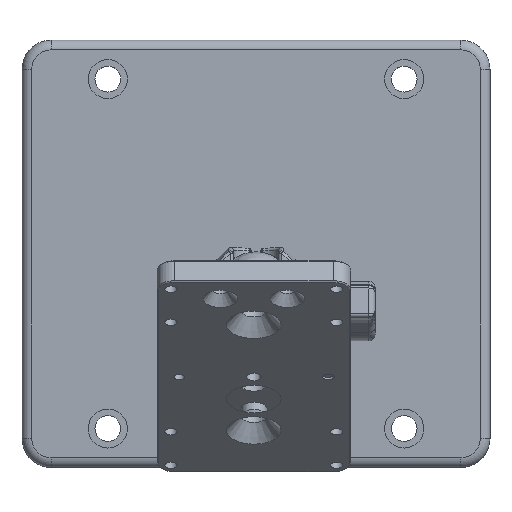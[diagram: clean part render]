
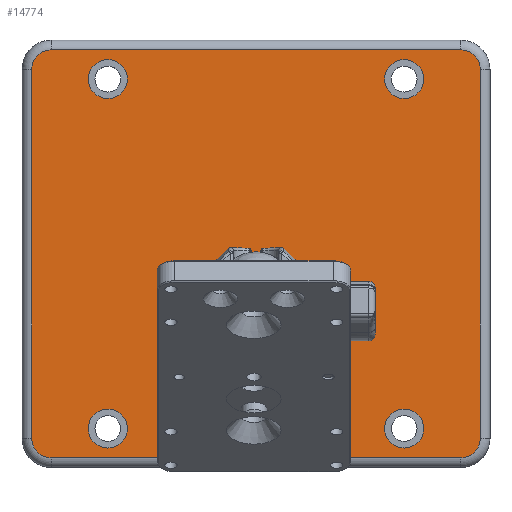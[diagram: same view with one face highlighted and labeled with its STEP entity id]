
A CAD part, top view. The second image highlights one B-rep face of the part: STEP entity #14774.
In plain terms, the highlighted planar face has unit normal (0, 0, 1).
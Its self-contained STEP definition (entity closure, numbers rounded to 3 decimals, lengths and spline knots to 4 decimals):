
#411=FACE_BOUND('',#2803,.T.);
#412=FACE_BOUND('',#2804,.T.);
#413=FACE_BOUND('',#2805,.T.);
#414=FACE_BOUND('',#2806,.T.);
#415=FACE_BOUND('',#2807,.T.);
#640=PLANE('',#16040);
#1883=FACE_OUTER_BOUND('',#2802,.T.);
#2802=EDGE_LOOP('',(#12756,#12757,#12758,#12759,#12760,#12761,#12762,#12763));
#2803=EDGE_LOOP('',(#12764));
#2804=EDGE_LOOP('',(#12765));
#2805=EDGE_LOOP('',(#12766));
#2806=EDGE_LOOP('',(#12767));
#2807=EDGE_LOOP('',(#12768,#12769,#12770,#12771,#12772,#12773,#12774,#12775));
#3530=CIRCLE('',#16041,0.25);
#3531=CIRCLE('',#16042,0.25);
#3532=CIRCLE('',#16043,0.25);
#3533=CIRCLE('',#16044,0.25);
#3534=CIRCLE('',#16045,0.25);
#3535=CIRCLE('',#16046,0.25);
#3536=CIRCLE('',#16047,0.25);
#3537=CIRCLE('',#16048,0.25);
#3538=CIRCLE('',#16049,0.263);
#3539=CIRCLE('',#16050,0.6565);
#3540=CIRCLE('',#16051,0.263);
#3541=CIRCLE('',#16052,0.6565);
#4669=LINE('',#40723,#5335);
#4670=LINE('',#40727,#5336);
#4671=LINE('',#40731,#5337);
#4672=LINE('',#40735,#5338);
#4673=LINE('',#40749,#5339);
#4674=LINE('',#40753,#5340);
#4675=LINE('',#40757,#5341);
#4676=LINE('',#40760,#5342);
#5335=VECTOR('',#19007,1.);
#5336=VECTOR('',#19010,1.);
#5337=VECTOR('',#19013,1.);
#5338=VECTOR('',#19016,1.);
#5339=VECTOR('',#19029,1.);
#5340=VECTOR('',#19032,1.);
#5341=VECTOR('',#19035,1.);
#5342=VECTOR('',#19038,1.);
#6739=VERTEX_POINT('',#40721);
#6740=VERTEX_POINT('',#40722);
#6741=VERTEX_POINT('',#40724);
#6742=VERTEX_POINT('',#40726);
#6743=VERTEX_POINT('',#40728);
#6744=VERTEX_POINT('',#40730);
#6745=VERTEX_POINT('',#40732);
#6746=VERTEX_POINT('',#40734);
#6747=VERTEX_POINT('',#40737);
#6748=VERTEX_POINT('',#40739);
#6749=VERTEX_POINT('',#40741);
#6750=VERTEX_POINT('',#40743);
#6751=VERTEX_POINT('',#40745);
#6752=VERTEX_POINT('',#40746);
#6753=VERTEX_POINT('',#40748);
#6754=VERTEX_POINT('',#40750);
#6755=VERTEX_POINT('',#40752);
#6756=VERTEX_POINT('',#40754);
#6757=VERTEX_POINT('',#40756);
#6758=VERTEX_POINT('',#40758);
#8874=EDGE_CURVE('',#6739,#6740,#4669,.T.);
#8875=EDGE_CURVE('',#6741,#6739,#3530,.T.);
#8876=EDGE_CURVE('',#6742,#6741,#4670,.T.);
#8877=EDGE_CURVE('',#6743,#6742,#3531,.T.);
#8878=EDGE_CURVE('',#6744,#6743,#4671,.T.);
#8879=EDGE_CURVE('',#6745,#6744,#3532,.T.);
#8880=EDGE_CURVE('',#6746,#6745,#4672,.T.);
#8881=EDGE_CURVE('',#6740,#6746,#3533,.T.);
#8882=EDGE_CURVE('',#6747,#6747,#3534,.T.);
#8883=EDGE_CURVE('',#6748,#6748,#3535,.T.);
#8884=EDGE_CURVE('',#6749,#6749,#3536,.T.);
#8885=EDGE_CURVE('',#6750,#6750,#3537,.T.);
#8886=EDGE_CURVE('',#6751,#6752,#3538,.T.);
#8887=EDGE_CURVE('',#6752,#6753,#4673,.T.);
#8888=EDGE_CURVE('',#6753,#6754,#3539,.T.);
#8889=EDGE_CURVE('',#6754,#6755,#4674,.T.);
#8890=EDGE_CURVE('',#6755,#6756,#3540,.T.);
#8891=EDGE_CURVE('',#6756,#6757,#4675,.T.);
#8892=EDGE_CURVE('',#6757,#6758,#3541,.T.);
#8893=EDGE_CURVE('',#6758,#6751,#4676,.T.);
#12756=ORIENTED_EDGE('',*,*,#8874,.F.);
#12757=ORIENTED_EDGE('',*,*,#8875,.F.);
#12758=ORIENTED_EDGE('',*,*,#8876,.F.);
#12759=ORIENTED_EDGE('',*,*,#8877,.F.);
#12760=ORIENTED_EDGE('',*,*,#8878,.F.);
#12761=ORIENTED_EDGE('',*,*,#8879,.F.);
#12762=ORIENTED_EDGE('',*,*,#8880,.F.);
#12763=ORIENTED_EDGE('',*,*,#8881,.F.);
#12764=ORIENTED_EDGE('',*,*,#8882,.T.);
#12765=ORIENTED_EDGE('',*,*,#8883,.T.);
#12766=ORIENTED_EDGE('',*,*,#8884,.T.);
#12767=ORIENTED_EDGE('',*,*,#8885,.T.);
#12768=ORIENTED_EDGE('',*,*,#8886,.T.);
#12769=ORIENTED_EDGE('',*,*,#8887,.T.);
#12770=ORIENTED_EDGE('',*,*,#8888,.T.);
#12771=ORIENTED_EDGE('',*,*,#8889,.T.);
#12772=ORIENTED_EDGE('',*,*,#8890,.T.);
#12773=ORIENTED_EDGE('',*,*,#8891,.T.);
#12774=ORIENTED_EDGE('',*,*,#8892,.T.);
#12775=ORIENTED_EDGE('',*,*,#8893,.T.);
#14774=ADVANCED_FACE('',(#1883,#411,#412,#413,#414,#415),#640,.T.);
#16040=AXIS2_PLACEMENT_3D('',#40720,#19005,#19006);
#16041=AXIS2_PLACEMENT_3D('',#40725,#19008,#19009);
#16042=AXIS2_PLACEMENT_3D('',#40729,#19011,#19012);
#16043=AXIS2_PLACEMENT_3D('',#40733,#19014,#19015);
#16044=AXIS2_PLACEMENT_3D('',#40736,#19017,#19018);
#16045=AXIS2_PLACEMENT_3D('',#40738,#19019,#19020);
#16046=AXIS2_PLACEMENT_3D('',#40740,#19021,#19022);
#16047=AXIS2_PLACEMENT_3D('',#40742,#19023,#19024);
#16048=AXIS2_PLACEMENT_3D('',#40744,#19025,#19026);
#16049=AXIS2_PLACEMENT_3D('',#40747,#19027,#19028);
#16050=AXIS2_PLACEMENT_3D('',#40751,#19030,#19031);
#16051=AXIS2_PLACEMENT_3D('',#40755,#19033,#19034);
#16052=AXIS2_PLACEMENT_3D('',#40759,#19036,#19037);
#19005=DIRECTION('center_axis',(0.,0.,
1.));
#19006=DIRECTION('ref_axis',(0.,-1.,0.));
#19007=DIRECTION('',(0.,-1.,0.));
#19008=DIRECTION('center_axis',(0.,0.,
-1.));
#19009=DIRECTION('ref_axis',(0.707,0.707,0.));
#19010=DIRECTION('',(1.,0.,0.));
#19011=DIRECTION('center_axis',(0.,0.,
-1.));
#19012=DIRECTION('ref_axis',(-0.707,0.707,0.));
#19013=DIRECTION('',(0.,1.,0.));
#19014=DIRECTION('center_axis',(0.,0.,
-1.));
#19015=DIRECTION('ref_axis',(-0.707,-0.707,0.));
#19016=DIRECTION('',(-1.,0.,0.));
#19017=DIRECTION('center_axis',(0.,0.,
-1.));
#19018=DIRECTION('ref_axis',(0.707,-0.707,0.));
#19019=DIRECTION('center_axis',(0.,0.,
-1.));
#19020=DIRECTION('ref_axis',(0.,-1.,0.));
#19021=DIRECTION('center_axis',(0.,0.,
-1.));
#19022=DIRECTION('ref_axis',(0.,-1.,0.));
#19023=DIRECTION('center_axis',(0.,0.,
-1.));
#19024=DIRECTION('ref_axis',(0.,1.,0.));
#19025=DIRECTION('center_axis',(0.,0.,
-1.));
#19026=DIRECTION('ref_axis',(0.,1.,0.));
#19027=DIRECTION('center_axis',(0.,0.,
-1.));
#19028=DIRECTION('ref_axis',(1.,0.,0.));
#19029=DIRECTION('',(-0.911,-0.412,0.));
#19030=DIRECTION('center_axis',(0.,0.,
-1.));
#19031=DIRECTION('ref_axis',(0.,-1.,0.));
#19032=DIRECTION('',(-0.911,0.412,0.));
#19033=DIRECTION('center_axis',(0.,0.,
-1.));
#19034=DIRECTION('ref_axis',(-1.,0.,0.));
#19035=DIRECTION('',(0.911,0.412,0.));
#19036=DIRECTION('center_axis',(0.,0.,
-1.));
#19037=DIRECTION('ref_axis',(0.,1.,0.));
#19038=DIRECTION('',(0.911,-0.412,0.));
#40720=CARTESIAN_POINT('Origin',(4.979,16.4488,7.2416));
#40721=CARTESIAN_POINT('',(8.654,21.0538,7.2416));
#40722=CARTESIAN_POINT('',(8.654,16.3238,7.2416));
#40723=CARTESIAN_POINT('',(8.654,17.1988,7.2416));
#40724=CARTESIAN_POINT('',(8.404,21.3038,7.2416));
#40725=CARTESIAN_POINT('Origin',(8.404,21.0538,7.2416));
#40726=CARTESIAN_POINT('',(3.154,21.3038,7.2416));
#40727=CARTESIAN_POINT('',(3.879,21.3038,7.2416));
#40728=CARTESIAN_POINT('',(2.904,21.0538,7.2416));
#40729=CARTESIAN_POINT('Origin',(3.154,21.0538,7.2416));
#40730=CARTESIAN_POINT('',(2.904,16.3238,7.2416));
#40731=CARTESIAN_POINT('',(2.904,17.1988,7.2416));
#40732=CARTESIAN_POINT('',(3.154,16.0738,7.2416));
#40733=CARTESIAN_POINT('Origin',(3.154,16.3238,7.2416));
#40734=CARTESIAN_POINT('',(8.404,16.0738,7.2416));
#40735=CARTESIAN_POINT('',(3.879,16.0738,7.2416));
#40736=CARTESIAN_POINT('Origin',(8.404,16.3238,7.2416));
#40737=CARTESIAN_POINT('',(7.679,16.6988,7.2416));
#40738=CARTESIAN_POINT('Origin',(7.679,16.4488,7.2416));
#40739=CARTESIAN_POINT('',(3.879,16.6988,7.2416));
#40740=CARTESIAN_POINT('Origin',(3.879,16.4488,7.2416));
#40741=CARTESIAN_POINT('',(7.679,20.6788,7.2416));
#40742=CARTESIAN_POINT('Origin',(7.679,20.9288,7.2416));
#40743=CARTESIAN_POINT('',(3.879,20.6788,7.2416));
#40744=CARTESIAN_POINT('Origin',(3.879,20.9288,7.2416));
#40745=CARTESIAN_POINT('',(6.8432,17.9285,7.2416));
#40746=CARTESIAN_POINT('',(6.8432,17.4491,7.2416));
#40747=CARTESIAN_POINT('Origin',(6.735,17.6888,7.2416));
#40748=CARTESIAN_POINT('',(6.0492,17.0905,7.2416));
#40749=CARTESIAN_POINT('',(6.8432,17.4491,7.2416));
#40750=CARTESIAN_POINT('',(5.5088,17.0905,7.2416));
#40751=CARTESIAN_POINT('Origin',(5.779,17.6888,7.2416));
#40752=CARTESIAN_POINT('',(4.7147,17.4491,7.2416));
#40753=CARTESIAN_POINT('',(5.5088,17.0905,7.2416));
#40754=CARTESIAN_POINT('',(4.7147,17.9285,7.2416));
#40755=CARTESIAN_POINT('Origin',(4.823,17.6888,7.2416));
#40756=CARTESIAN_POINT('',(5.5088,18.2871,7.2416));
#40757=CARTESIAN_POINT('',(4.7147,17.9285,7.2416));
#40758=CARTESIAN_POINT('',(6.0492,18.2871,7.2416));
#40759=CARTESIAN_POINT('Origin',(5.779,17.6888,7.2416));
#40760=CARTESIAN_POINT('',(6.0492,18.2871,7.2416));
